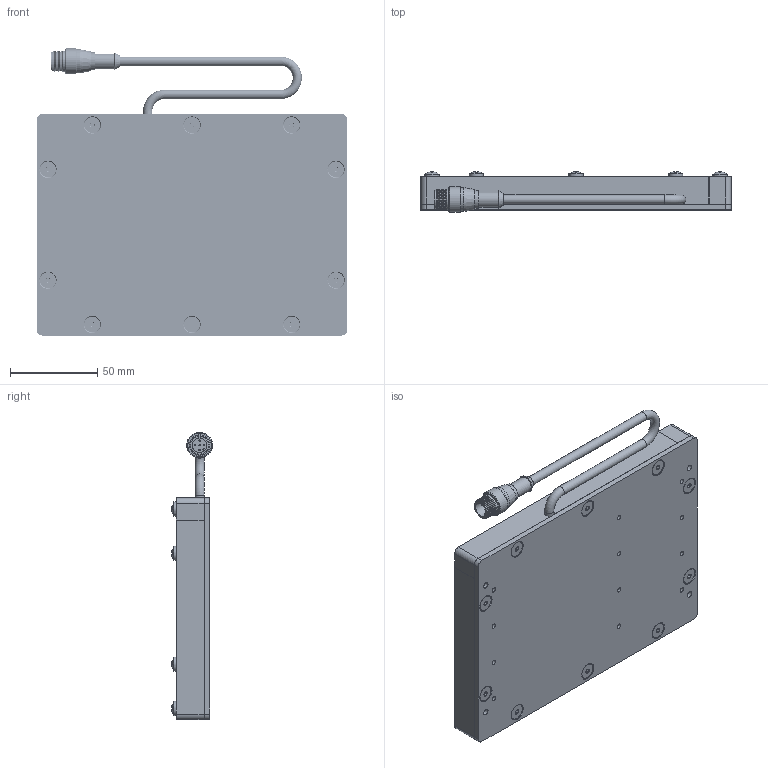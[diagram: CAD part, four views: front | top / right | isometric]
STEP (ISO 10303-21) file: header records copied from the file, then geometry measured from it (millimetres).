
FILE_DESCRIPTION (( 'STEP AP214' ), '1' );
FILE_NAME ('SBL46-XXX.STEP', '2026-04-17T19:04:24', ( '' ), ( '' ), 'SwSTEP 2.0', 'SolidWorks 2025', '' );
FILE_SCHEMA (( 'AUTOMOTIVE_DESIGN' ));
Length unit declared in the file: inch
Products named in the file (12): WD-SBLYYXX_4x6 with holes; MC Pigtail 24; SBL3 to 18in rail_06in rail; BackPlate BLYYXX_0406; M12 Connector 4,5 and 8 pin_RS4.5T; 8-32 x 0.375 FHCS (92210A192)_92210A192; SBL3 to 18in rail_06in No CG; SBL46-XXX; SBL3 to 18in rail_04in No CG; Hex Standoff .375 x 8-32; SC Pigtail Complete 18_5pin; 8-32 x .375 Nylon Screw_.375" 94611A192
Assembly tree (39 placements, depth 3):
  SBL46-XXX
    BackPlate BLYYXX_0406
    SBL3 to 18in rail_06in rail
    SBL3 to 18in rail_06in No CG
    SBL3 to 18in rail_04in No CG  x2
    SC Pigtail Complete 18_5pin
      MC Pigtail 24
      M12 Connector 4,5 and 8 pin_RS4.5T
    WD-SBLYYXX_4x6 with holes
    Hex Standoff .375 x 8-32  x10
    8-32 x 0.375 FHCS (92210A192)_92210A192  x10
    8-32 x .375 Nylon Screw_.375" 94611A192  x10
Bounding box: 177.8 x 23.38 x 164.53 mm (x, y, z)
Volume: 232379.9 mm3; surface area: 146168 mm2
Topology: 38 solids, 38 shells, 1190 faces, 2962 edges, 1889 vertices
Faces by surface type: plane 447, bspline 270, cylinder 256, cone 179, torus 23, sphere 15
Full cylindrical faces by diameter (mm): 0.762 x5, 2.705 x12, 3.454 x14, 4.496 x30, 5.207 x3, 6.604 x8, 6.858 x10, 8.128 x10, 8.382 x1, 8.636 x1, 9.119 x10, 10.16 x1, 10.541 x1, 11.938 x1, 13.716 x2, 14.732 x1
Entity records: 16969 total; most frequent: CARTESIAN_POINT 5807, DIRECTION 2025, ORIENTED_EDGE 1736, EDGE_CURVE 868, AXIS2_PLACEMENT_3D 826, EDGE_LOOP 651, VERTEX_POINT 637, FACE_OUTER_BOUND 490
